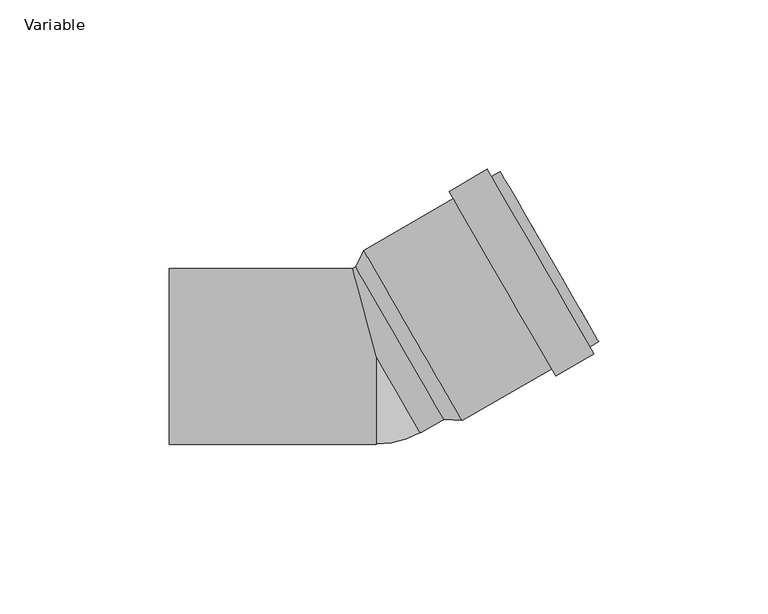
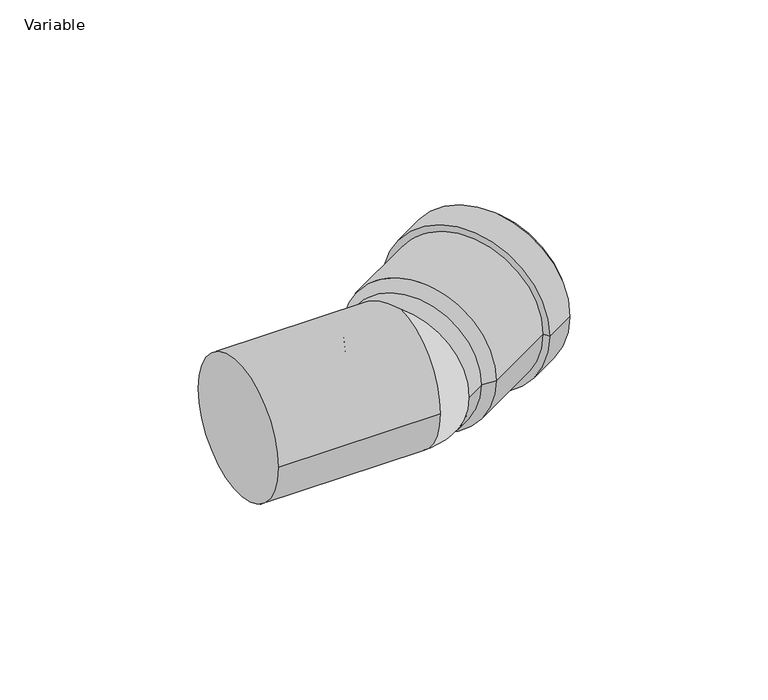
"""IFC4 building model written with IfcOpenShell, lengths in millimetres: pipe fitting geometry, AliaxisFR_Friaphon_ElbowMF_FR : Variable."""

from ifc_helpers import new_model, si_unit, point, frame, origin, place, context, project, spatial, polyline, circle_curve, ellipse_curve, trimmed, source, transform, mapped, element, save
from ifc_brep_helpers import plane_surface, cylinder_surface, revolved_surface, advanced_brep


def variable_fe735af3(model_context):
    return source(origin(), model_context, "Body", "AdvancedBrep", [
        advanced_brep(
        [(65.5954988, 4.3852633, 0.0), (36.5954988, 54.6147367, 0.0), (38.0954988, 52.0166605, 0.0), (64.0954988, 6.9833395, 0.0), (52.9890924, -5.7798002, 0.0), (21.4890924, 48.7798002, 0.0), (32.7474226, 55.2798002, 0.0), (64.2474226, 0.7201998, 0.0), (51.7390924, -3.6147367, 0.0), (22.7390924, 46.6147367, 0.0), (25.3253175, -18.8647367, 0.0), (-3.6746825, 31.3647367, 0.0), (-6.0717968, 26.5166605, 0.0), (19.9282032, -18.5166605, 0.0), (62.9974226, 2.8852633, 0.0), (33.9974226, 53.1147367, 0.0)],
        [
            (0, 1, circle_curve(frame((51.0954988, 29.5, 0.0), z_axis=(0.866025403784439, 0.4999999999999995, 0.0), x_axis=(-0.4999999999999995, 0.866025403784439, 0.0)), 29.0)),
            (1, 2),
            (2, 3, circle_curve(frame((51.0954988, 29.5, 0.0), z_axis=(-0.866025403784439, -0.4999999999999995, 0.0), x_axis=(-0.4999999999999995, 0.866025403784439, 0.0)), 26.0)),
            (3, 0),
            (1, 0, circle_curve(frame((51.0954988, 29.5, 0.0), z_axis=(0.866025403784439, 0.4999999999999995, 0.0), x_axis=(-0.4999999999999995, 0.866025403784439, 0.0)), 29.0)),
            (3, 2, circle_curve(frame((51.0954988, 29.5, 0.0), z_axis=(-0.866025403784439, -0.4999999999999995, 0.0), x_axis=(-0.4999999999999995, 0.866025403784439, 0.0)), 26.0)),
            (4, 5, circle_curve(frame((37.2390924, 21.5, 0.0), z_axis=(0.866025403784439, 0.4999999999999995, 0.0), x_axis=(-0.4999999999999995, 0.866025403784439, 0.0)), 31.5)),
            (5, 6),
            (6, 7, circle_curve(frame((48.4974226, 28.0, 0.0), z_axis=(-0.866025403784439, -0.4999999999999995, 0.0), x_axis=(-0.4999999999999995, 0.866025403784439, 0.0)), 31.5)),
            (7, 4),
            (5, 4, circle_curve(frame((37.2390924, 21.5, 0.0), z_axis=(0.866025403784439, 0.4999999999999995, 0.0), x_axis=(-0.4999999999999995, 0.866025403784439, 0.0)), 31.5)),
            (7, 6, circle_curve(frame((48.4974226, 28.0, 0.0), z_axis=(-0.866025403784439, -0.4999999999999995, 0.0), x_axis=(-0.4999999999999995, 0.866025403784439, 0.0)), 31.5)),
            (8, 9, circle_curve(frame((37.2390924, 21.5, 0.0), z_axis=(0.866025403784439, 0.4999999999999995, 0.0), x_axis=(-0.4999999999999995, 0.866025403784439, 0.0)), 29.0)),
            (9, 5),
            (4, 8),
            (9, 8, circle_curve(frame((37.2390924, 21.5, 0.0), z_axis=(0.866025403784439, 0.4999999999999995, 0.0), x_axis=(-0.4999999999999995, 0.866025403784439, 0.0)), 29.0)),
            (10, 11, circle_curve(frame((10.8253175, 6.25, 0.0), z_axis=(0.866025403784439, 0.4999999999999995, 0.0), x_axis=(-0.4999999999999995, 0.866025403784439, 0.0)), 29.0)),
            (11, 9),
            (8, 10),
            (11, 10, circle_curve(frame((10.8253175, 6.25, 0.0), z_axis=(0.866025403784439, 0.4999999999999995, 0.0), x_axis=(-0.4999999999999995, 0.866025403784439, 0.0)), 29.0)),
            (2, 12),
            (12, 13, circle_curve(frame((6.9282032, 4.0, 0.0), z_axis=(-0.866025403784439, -0.4999999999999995, 0.0), x_axis=(-0.4999999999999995, 0.866025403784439, 0.0)), 26.0)),
            (13, 3),
            (13, 12, circle_curve(frame((6.9282032, 4.0, 0.0), z_axis=(-0.866025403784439, -0.4999999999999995, 0.0), x_axis=(-0.4999999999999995, 0.866025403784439, 0.0)), 26.0)),
            (12, 11),
            (10, 13),
            (14, 15, circle_curve(frame((48.4974226, 28.0, 0.0), z_axis=(0.866025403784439, 0.4999999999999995, 0.0), x_axis=(-0.4999999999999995, 0.866025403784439, 0.0)), 29.0)),
            (15, 1),
            (0, 14),
            (15, 14, circle_curve(frame((48.4974226, 28.0, 0.0), z_axis=(0.866025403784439, 0.4999999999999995, 0.0), x_axis=(-0.4999999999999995, 0.866025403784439, 0.0)), 29.0)),
            (6, 15),
            (14, 7),
        ],
        [
            plane_surface(frame((51.0954988, 29.5, 0.0), z_axis=(0.866025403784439, 0.4999999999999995, 0.0), x_axis=(-0.4999999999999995, 0.866025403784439, 0.0))),
            cylinder_surface(frame((6.9282032, 4.0, 0.0), z_axis=(-0.866025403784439, -0.4999999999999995, 0.0), x_axis=(-0.4999999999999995, 0.866025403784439, 0.0)), 31.5),
            plane_surface(frame((37.2390924, 21.5, 0.0), z_axis=(-0.866025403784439, -0.4999999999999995, 0.0), x_axis=(-0.4999999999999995, 0.866025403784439, 0.0))),
            cylinder_surface(frame((6.9282032, 4.0, 0.0), z_axis=(-0.866025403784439, -0.4999999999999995, 0.0), x_axis=(-0.4999999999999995, 0.866025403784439, 0.0)), 29.0),
            revolved_surface(polyline([(-6.071796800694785, 26.516660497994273, 0.0), (38.09549879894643, 52.01666050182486, 0.0)]), (6.9282032, 4.0, 0.0), (-0.866025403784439, -0.4999999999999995, 0.0)),
            revolved_surface(polyline([(-3.6746825, 31.3647367, 0.0), (-6.0717968, 26.5166605, 0.0)]), (6.9282032, 4.0, 0.0), (-0.866025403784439, -0.4999999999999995, 0.0)),
            plane_surface(frame((48.4974226, 28.0, 0.0), z_axis=(0.866025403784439, 0.4999999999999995, 0.0), x_axis=(-0.4999999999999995, 0.866025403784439, 0.0))),
        ],
        [
            (0, [[1, 2, 3, 4]]),
            (0, [[5, -4, 6, -2]]),
            (1, [[7, 8, 9, 10]]),
            (1, [[11, -10, 12, -8]]),
            (2, [[13, 14, -7, 15]]),
            (2, [[16, -15, -11, -14]]),
            (3, [[17, 18, -13, 19]]),
            (3, [[20, -19, -16, -18]]),
            (4, [[-3, 21, 22, 23]]),
            (4, [[-6, -23, 24, -21]]),
            (5, [[-22, 25, -17, 26]]),
            (5, [[-24, -26, -20, -25]]),
            (3, [[27, 28, -1, 29]]),
            (3, [[30, -29, -5, -28]]),
            (6, [[-9, 31, -27, 32]]),
            (6, [[-12, -32, -30, -31]]),
        ],
    ),
        advanced_brep(
        [(-3.4737206, 28.0166605, 0.0), (22.5262794, -17.0166605, 0.0), (13.0, -22.5166605, 0.0), (-6.966679, 26.0, 0.0), (0.0, 0.0, 26.0), (0.0, 0.0, -26.0), (-61.0, -26.0, 0.0), (-61.0, 26.0, 0.0), (0.0, -26.0, 0.0)],
        [
            (0, 1, circle_curve(frame((9.5262794, 5.5, 0.0), z_axis=(0.8660254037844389, 0.4999999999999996, 0.0), x_axis=(-0.4999999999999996, 0.8660254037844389, 0.0)), 26.0)),
            (1, 0, circle_curve(frame((9.5262794, 5.5, 0.0), z_axis=(0.8660254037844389, 0.4999999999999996, 0.0), x_axis=(-0.4999999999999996, 0.8660254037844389, 0.0)), 26.0)),
            (2, 1),
            (0, 3),
            (3, 4, ellipse_curve(frame((0.0, 0.0, 0.0), z_axis=(0.9659258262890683, 0.2588190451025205, 0.0), x_axis=(0.25881904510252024, -0.9659258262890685, 0.0)), 26.9171807, 26.0)),
            (4, 2, circle_curve(frame((0.0, 0.0, 0.0), z_axis=(0.8660254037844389, 0.4999999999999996, 0.0), x_axis=(-0.4999999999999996, 0.8660254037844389, 0.0)), 26.0)),
            (2, 5, circle_curve(frame((0.0, 0.0, 0.0), z_axis=(0.8660254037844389, 0.4999999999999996, 0.0), x_axis=(-0.4999999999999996, 0.8660254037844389, 0.0)), 26.0)),
            (5, 3, ellipse_curve(frame((0.0, 0.0, 0.0), z_axis=(0.9659258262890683, 0.2588190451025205, 0.0), x_axis=(0.25881904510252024, -0.9659258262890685, 0.0)), 26.9171807, 26.0)),
            (6, 7, circle_curve(frame((-61.0, 0.0, 0.0), z_axis=(-1.0, 0.0, 0.0), x_axis=(0.0, 1.0, 0.0)), 26.0)),
            (7, 6, circle_curve(frame((-61.0, 0.0, 0.0), z_axis=(-1.0, 0.0, 0.0), x_axis=(0.0, 1.0, 0.0)), 26.0)),
            (6, 8),
            (8, 4, circle_curve(frame((0.0, 0.0, 0.0), z_axis=(-1.0, 0.0, 0.0), x_axis=(0.0, 1.0, 0.0)), 26.0)),
            (3, 7),
            (5, 8, circle_curve(frame((0.0, 0.0, 0.0), z_axis=(-1.0, 0.0, 0.0), x_axis=(0.0, 1.0, 0.0)), 26.0)),
        ],
        [
            plane_surface(frame((9.5262794, 5.5, 0.0), z_axis=(0.8660254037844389, 0.49999999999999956, 0.0), x_axis=(0.0, 0.0, 1.0))),
            cylinder_surface(frame((0.0, 0.0, 0.0), z_axis=(-0.8660254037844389, -0.4999999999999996, 0.0), x_axis=(-0.4999999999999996, 0.8660254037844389, 0.0)), 26.0),
            plane_surface(frame((-61.0, 0.0, 0.0), z_axis=(-1.0, 0.0, 0.0), x_axis=(0.0, 0.0, 1.0))),
            cylinder_surface(frame((-61.0, 0.0, 0.0), z_axis=(-1.0, 0.0, 0.0), x_axis=(0.0, 1.0, 0.0)), 26.0),
            revolved_surface(trimmed(ellipse_curve(frame((0.0, 0.0, 0.0), z_axis=(0.8660254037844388, 0.49999999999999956, 0.0), x_axis=(-0.49999999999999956, 0.8660254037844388, 0.0)), 26.0, 26.0), [point((0.0, 0.0, 26.0))], [point((0.0, 0.0, -26.0))], True, "CARTESIAN"), (0.0, 0.0, 26.0), (0.0, 0.0, -1.0)),
        ],
        [
            (0, [[1, 2]]),
            (1, [[3, -1, 4, 5, 6]]),
            (1, [[-2, -3, 7, 8, -4]]),
            (2, [[9, 10]]),
            (3, [[-9, 11, 12, -5, 13]]),
            (3, [[-10, -13, -8, 14, -11]]),
            (4, [[-12, -14, -7, -6]]),
        ],
    ),
    ])


if __name__ == "__main__":
    model = new_model("IFC4")
    model_context = context("Model", 3, world=origin())
    ifc_project = project(units=[si_unit("LENGTHUNIT", "METRE", prefix="MILLI")], contexts=[model_context])
    site = spatial("IfcSite", under=ifc_project)
    building = spatial("IfcBuilding", under=site)
    placement = place(None, origin())
    variable_shape = variable_fe735af3(model_context)
    element("IfcPipeFitting", 1, ObjectType="AliaxisFR_Friaphon_ElbowMF_FR : Variable", at=placement, inside=building, context=model_context, shape_type="MappedRepresentation", body=[
        mapped(variable_shape, transform((0.0, 0.0, 0.0), x_axis=(1.0, 0.0, 0.0), y_axis=(0.0, 1.0, 0.0), z_axis=(0.0, 0.0, 1.0))),
    ])
    save(model, "model.ifc")
